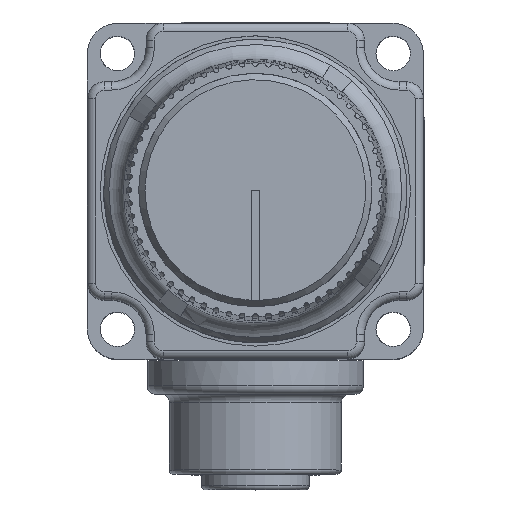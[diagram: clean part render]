
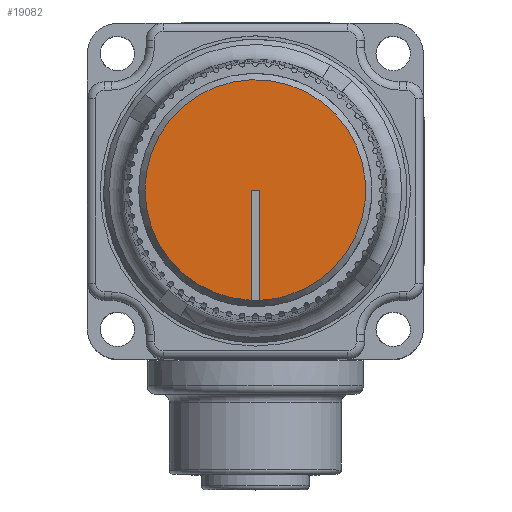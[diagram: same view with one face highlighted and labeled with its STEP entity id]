
A CAD part, top view. The second image highlights one B-rep face of the part: STEP entity #19082.
In plain terms, the highlighted planar face has unit normal (0, 0, 1).
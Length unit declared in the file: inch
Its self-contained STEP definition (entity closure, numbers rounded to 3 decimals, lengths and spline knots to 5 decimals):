
#958=PLANE('',#20722);
#1792=FACE_OUTER_BOUND('',#2903,.T.);
#2903=EDGE_LOOP('',(#15051,#15052,#15053,#15054,#15055));
#3781=CIRCLE('',#20723,0.4);
#3782=CIRCLE('',#20724,0.4);
#5328=LINE('',#32515,#6704);
#5329=LINE('',#32521,#6705);
#5330=LINE('',#32522,#6706);
#6704=VECTOR('',#24936,0.3937);
#6705=VECTOR('',#24941,0.3937);
#6706=VECTOR('',#24942,0.3937);
#8274=VERTEX_POINT('',#32513);
#8275=VERTEX_POINT('',#32514);
#8276=VERTEX_POINT('',#32516);
#8277=VERTEX_POINT('',#32518);
#8278=VERTEX_POINT('',#32520);
#10642=EDGE_CURVE('',#8274,#8275,#5328,.T.);
#10643=EDGE_CURVE('',#8275,#8276,#3781,.T.);
#10644=EDGE_CURVE('',#8276,#8277,#3782,.T.);
#10645=EDGE_CURVE('',#8277,#8278,#5329,.T.);
#10646=EDGE_CURVE('',#8278,#8274,#5330,.T.);
#15051=ORIENTED_EDGE('',*,*,#10642,.T.);
#15052=ORIENTED_EDGE('',*,*,#10643,.T.);
#15053=ORIENTED_EDGE('',*,*,#10644,.T.);
#15054=ORIENTED_EDGE('',*,*,#10645,.T.);
#15055=ORIENTED_EDGE('',*,*,#10646,.T.);
#19082=ADVANCED_FACE('',(#1792),#958,.T.);
#20722=AXIS2_PLACEMENT_3D('',#32512,#24934,#24935);
#20723=AXIS2_PLACEMENT_3D('',#32517,#24937,#24938);
#20724=AXIS2_PLACEMENT_3D('',#32519,#24939,#24940);
#24934=DIRECTION('center_axis',(0.,0.,1.));
#24935=DIRECTION('ref_axis',(1.,0.,0.));
#24936=DIRECTION('',(0.,-1.,0.));
#24937=DIRECTION('center_axis',(0.,0.,
1.));
#24938=DIRECTION('ref_axis',(0.325,0.946,0.));
#24939=DIRECTION('center_axis',(0.,0.,
1.));
#24940=DIRECTION('ref_axis',(0.325,0.946,0.));
#24941=DIRECTION('',(0.,1.,0.));
#24942=DIRECTION('',(1.,0.,0.));
#32512=CARTESIAN_POINT('Origin',(-1.01389,-0.22351,1.82375));
#32513=CARTESIAN_POINT('',(-0.99889,0.1766,1.82375));
#32514=CARTESIAN_POINT('',(-0.99889,-0.22312,1.82375));
#32515=CARTESIAN_POINT('',(-0.99889,0.1766,1.82375));
#32516=CARTESIAN_POINT('',(-0.89971,-0.20676,1.82375));
#32517=CARTESIAN_POINT('Origin',(-1.01389,0.1766,1.82375));
#32518=CARTESIAN_POINT('',(-1.02889,-0.22312,1.82375));
#32519=CARTESIAN_POINT('Origin',(-1.01389,0.1766,1.82375));
#32520=CARTESIAN_POINT('',(-1.02889,0.1766,1.82375));
#32521=CARTESIAN_POINT('',(-1.02889,-0.22312,1.82375));
#32522=CARTESIAN_POINT('',(-1.02889,0.1766,1.82375));
